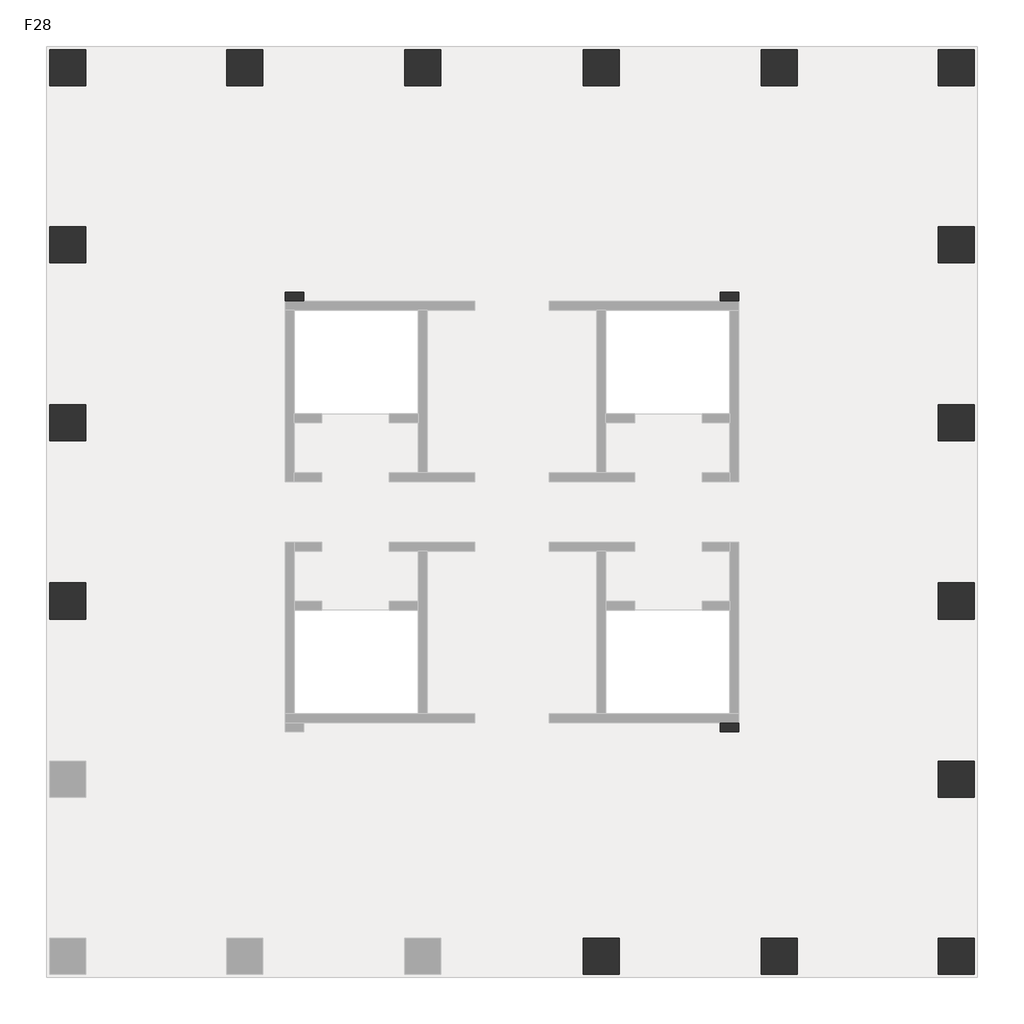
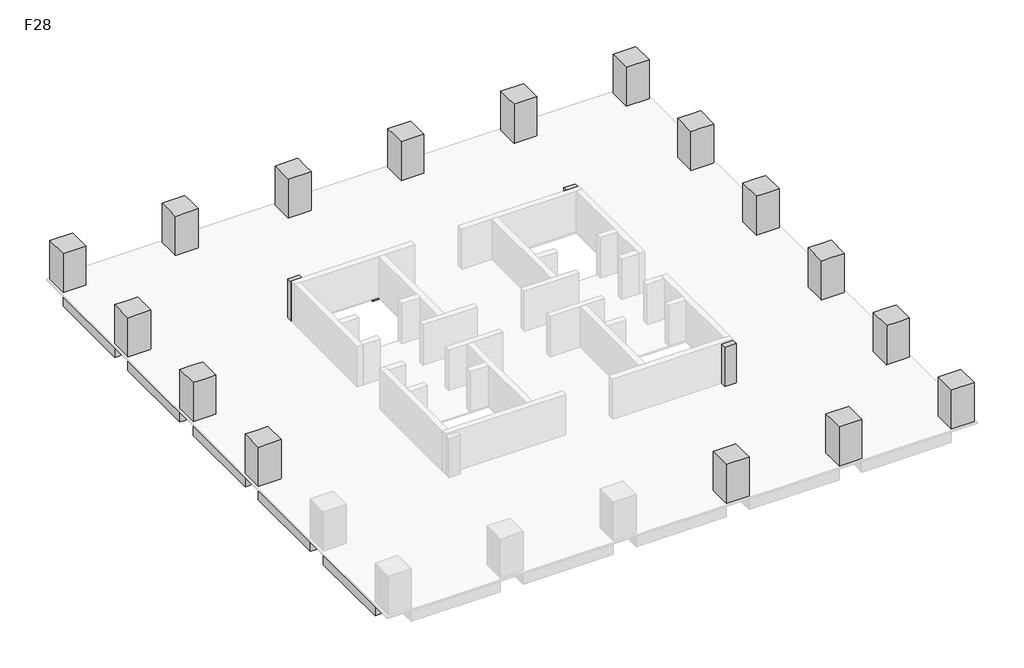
# One storey, part 2 of 2: 19 columns, 17 beams.
"""IFC4 building model written with IfcOpenShell, lengths in millimetres."""

from ifc_helpers import new_model, si_unit, frame, origin, place, context, project, spatial, polyline, outline, extrude, faceted_brep, element, save

model = new_model("IFC4")

# Units and contexts
model_context = context("Model", 3, world=origin())
ifc_project = project(units=[si_unit("LENGTHUNIT", "METRE", prefix="MILLI")], contexts=[model_context])

# Site, building, storey
site = spatial("IfcSite", under=ifc_project)
building = spatial("IfcBuilding", under=site)
storey = spatial("IfcBuildingStorey", under=building, Name="F28", Elevation=102000.0)

# Beams
placement = place(None, origin())
element("IfcBeam", 1, ObjectType="混凝土 - 矩形梁 : KL(5)-800x1000", at=placement, inside=storey, context=model_context, shape_type="SweptSolid", body=[
    extrude(outline(polyline([(25327.3257831, 27051.0498658), (25327.3257831, 26251.0498658), (19077.3257831, 26251.0498658), (19077.3257831, 27051.0498658), (25327.3257831, 27051.0498658)])), frame((0.0, 0.0, 101000.0), z_axis=(0.0, 0.0, 1.0), x_axis=(1.0, 0.0, 0.0)), (0.0, 0.0, 1.0), 900.0),
    extrude(outline(polyline([(-12472.6742169, 26251.0498658), (-12472.6742169, 27051.0498658), (-6222.6742169, 27051.0498658), (-6222.6742169, 26251.0498658), (-12472.6742169, 26251.0498658)])), frame((0.0, 0.0, 101000.0), z_axis=(0.0, 0.0, 1.0), x_axis=(1.0, 0.0, 0.0)), (0.0, 0.0, 1.0), 900.0),
    extrude(outline(polyline([(-4622.6742169, 26251.0498658), (-4622.6742169, 27051.0498658), (1677.3257831, 27051.0498658), (1677.3257831, 26251.0498658), (-4622.6742169, 26251.0498658)])), frame((0.0, 0.0, 101000.0), z_axis=(0.0, 0.0, 1.0), x_axis=(1.0, 0.0, 0.0)), (0.0, 0.0, 1.0), 900.0),
    extrude(outline(polyline([(3277.3257831, 26251.0498658), (3277.3257831, 27051.0498658), (9577.3257831, 27051.0498658), (9577.3257831, 26251.0498658), (3277.3257831, 26251.0498658)])), frame((0.0, 0.0, 101000.0), z_axis=(0.0, 0.0, 1.0), x_axis=(1.0, 0.0, 0.0)), (0.0, 0.0, 1.0), 900.0),
    extrude(outline(polyline([(11177.3257831, 26251.0498658), (11177.3257831, 27051.0498658), (17477.3257831, 27051.0498658), (17477.3257831, 26251.0498658), (11177.3257831, 26251.0498658)])), frame((0.0, 0.0, 101000.0), z_axis=(0.0, 0.0, 1.0), x_axis=(1.0, 0.0, 0.0)), (0.0, 0.0, 1.0), 900.0),
])
element("IfcBeam", 2, ObjectType="混凝土 - 矩形梁 : KL(5)-800x1000", at=placement, inside=storey, context=model_context, shape_type="SweptSolid", body=[
    extrude(outline(polyline([(26927.3257831, -12348.9501342), (26127.3257831, -12348.9501342), (26127.3257831, -6098.9501342), (26927.3257831, -6098.9501342), (26927.3257831, -12348.9501342)])), frame((0.0, 0.0, 101000.0), z_axis=(0.0, 0.0, 1.0), x_axis=(1.0, 0.0, 0.0)), (0.0, 0.0, 1.0), 900.0),
    extrude(outline(polyline([(26127.3257831, 25451.0498658), (26927.3257831, 25451.0498658), (26927.3257831, 19201.0498658), (26127.3257831, 19201.0498658), (26127.3257831, 25451.0498658)])), frame((0.0, 0.0, 101000.0), z_axis=(0.0, 0.0, 1.0), x_axis=(1.0, 0.0, 0.0)), (0.0, 0.0, 1.0), 900.0),
    extrude(outline(polyline([(26127.3257831, 17601.0498658), (26927.3257831, 17601.0498658), (26927.3257831, 11301.0498658), (26127.3257831, 11301.0498658), (26127.3257831, 17601.0498658)])), frame((0.0, 0.0, 101000.0), z_axis=(0.0, 0.0, 1.0), x_axis=(1.0, 0.0, 0.0)), (0.0, 0.0, 1.0), 900.0),
    extrude(outline(polyline([(26127.3257831, 9701.0498658), (26927.3257831, 9701.0498658), (26927.3257831, 3401.0498658), (26127.3257831, 3401.0498658), (26127.3257831, 9701.0498658)])), frame((0.0, 0.0, 101000.0), z_axis=(0.0, 0.0, 1.0), x_axis=(1.0, 0.0, 0.0)), (0.0, 0.0, 1.0), 900.0),
    extrude(outline(polyline([(26127.3257831, 1801.0498658), (26927.3257831, 1801.0498658), (26927.3257831, -4498.9501342), (26127.3257831, -4498.9501342), (26127.3257831, 1801.0498658)])), frame((0.0, 0.0, 101000.0), z_axis=(0.0, 0.0, 1.0), x_axis=(1.0, 0.0, 0.0)), (0.0, 0.0, 1.0), 900.0),
])
element("IfcBeam", 3, ObjectType="混凝土 - 矩形梁 : KL(5)-800x1000", at=placement, inside=storey, context=model_context, shape_type="SweptSolid", body=[
    extrude(outline(polyline([(-14072.6742169, 25451.0498658), (-13272.6742169, 25451.0498658), (-13272.6742169, 19201.0498658), (-14072.6742169, 19201.0498658), (-14072.6742169, 25451.0498658)])), frame((0.0, 0.0, 101000.0), z_axis=(0.0, 0.0, 1.0), x_axis=(1.0, 0.0, 0.0)), (0.0, 0.0, 1.0), 900.0),
    extrude(outline(polyline([(-13272.6742169, -12348.9501342), (-14072.6742169, -12348.9501342), (-14072.6742169, -6098.9501342), (-13272.6742169, -6098.9501342), (-13272.6742169, -12348.9501342)])), frame((0.0, 0.0, 101000.0), z_axis=(0.0, 0.0, 1.0), x_axis=(1.0, 0.0, 0.0)), (0.0, 0.0, 1.0), 900.0),
    extrude(outline(polyline([(-14072.6742169, 17601.0498658), (-13272.6742169, 17601.0498658), (-13272.6742169, 11301.0498658), (-14072.6742169, 11301.0498658), (-14072.6742169, 17601.0498658)])), frame((0.0, 0.0, 101000.0), z_axis=(0.0, 0.0, 1.0), x_axis=(1.0, 0.0, 0.0)), (0.0, 0.0, 1.0), 900.0),
    extrude(outline(polyline([(-14072.6742169, 9701.0498658), (-13272.6742169, 9701.0498658), (-13272.6742169, 3401.0498658), (-14072.6742169, 3401.0498658), (-14072.6742169, 9701.0498658)])), frame((0.0, 0.0, 101000.0), z_axis=(0.0, 0.0, 1.0), x_axis=(1.0, 0.0, 0.0)), (0.0, 0.0, 1.0), 900.0),
    extrude(outline(polyline([(-14072.6742169, 1801.0498658), (-13272.6742169, 1801.0498658), (-13272.6742169, -4498.9501342), (-14072.6742169, -4498.9501342), (-14072.6742169, 1801.0498658)])), frame((0.0, 0.0, 101000.0), z_axis=(0.0, 0.0, 1.0), x_axis=(1.0, 0.0, 0.0)), (0.0, 0.0, 1.0), 900.0),
])
element("IfcBeam", 4, ObjectType="混凝土 - 矩形梁 : L1-800x500", at=placement, inside=storey, context=model_context, shape_type="SweptSolid", body=[
    extrude(outline(polyline([(-12472.6742169, 2201.0498658), (-12472.6742169, 3001.0498658), (-3622.6742169, 3001.0498658), (-3622.6742169, 2201.0498658), (-12472.6742169, 2201.0498658)])), frame((0.0, 0.0, 101500.0), z_axis=(0.0, 0.0, 1.0), x_axis=(1.0, 0.0, 0.0)), (0.0, 0.0, 1.0), 400.0),
])
element("IfcBeam", 5, ObjectType="混凝土 - 矩形梁 : L1-800x500", at=placement, inside=storey, context=model_context, shape_type="SweptSolid", body=[
    extrude(outline(polyline([(-12472.6742169, 10101.0498658), (-12472.6742169, 10901.0498658), (-3622.6742169, 10901.0498658), (-3622.6742169, 10101.0498658), (-12472.6742169, 10101.0498658)])), frame((0.0, 0.0, 101500.0), z_axis=(0.0, 0.0, 1.0), x_axis=(1.0, 0.0, 0.0)), (0.0, 0.0, 1.0), 400.0),
])
element("IfcBeam", 6, ObjectType="混凝土 - 矩形梁 : L1-800x500", at=placement, inside=storey, context=model_context, shape_type="Brep", body=[
    faceted_brep([(-12472.6742169, 17789.85471, 101500.0), (-3622.6742169, 15588.3621727, 101500.0), (-3622.6742169, 15588.3621727, 101900.0), (-12472.6742169, 17789.85471, 101900.0), (-3173.6696907, 16301.0498658, 101500.0), (-3622.6742169, 16301.0498658, 101500.0), (-3622.6742169, 15901.0498658, 101500.0), (-12472.6742169, 18614.2350714, 101500.0), (-3746.9473979, 16443.6562607, 101500.0), (-12472.6742169, 18614.2350714, 101900.0), (-3746.9473979, 16443.6562607, 101900.0), (-3173.6696907, 16301.0498658, 101900.0), (-3622.6742169, 16301.0498658, 101900.0)], [[[0, 1, 2, 3]], [[4, 5, 6, 1, 0, 7, 8]], [[4, 8, 7, 9, 10, 11]], [[6, 5, 12, 2, 1]], [[5, 4, 11, 12]], [[7, 0, 3, 9]], [[3, 2, 12, 11, 10, 9]]]),
])
element("IfcBeam", 7, ObjectType="混凝土 - 矩形梁 : L1-800x500", at=placement, inside=storey, context=model_context, shape_type="SweptSolid", body=[
    extrude(outline(polyline([(-3173.6696907, 16301.0498658), (-3746.9473979, 16443.6562607), (-5661.5624638, 25451.0498658), (-4843.6893517, 25451.0498658), (-2898.7618154, 16301.0498658), (-3173.6696907, 16301.0498658)])), frame((0.0, 0.0, 101500.0), z_axis=(0.0, 0.0, 1.0), x_axis=(1.0, 0.0, 0.0)), (0.0, 0.0, 1.0), 400.0),
])
element("IfcBeam", 8, ObjectType="混凝土 - 矩形梁 : L1-800x500", at=placement, inside=storey, context=model_context, shape_type="SweptSolid", body=[
    extrude(outline(polyline([(2077.3257831, 25451.0498658), (2877.3257831, 25451.0498658), (2877.3257831, 15901.0498658), (2077.3257831, 15901.0498658), (2077.3257831, 25451.0498658)])), frame((0.0, 0.0, 101500.0), z_axis=(0.0, 0.0, 1.0), x_axis=(1.0, 0.0, 0.0)), (0.0, 0.0, 1.0), 400.0),
])
element("IfcBeam", 9, ObjectType="混凝土 - 矩形梁 : L1-800x500", at=placement, inside=storey, context=model_context, shape_type="SweptSolid", body=[
    extrude(outline(polyline([(9977.3257831, 25451.0498658), (10777.3257831, 25451.0498658), (10777.3257831, 15901.0498658), (9977.3257831, 15901.0498658), (9977.3257831, 25451.0498658)])), frame((0.0, 0.0, 101500.0), z_axis=(0.0, 0.0, 1.0), x_axis=(1.0, 0.0, 0.0)), (0.0, 0.0, 1.0), 400.0),
])
element("IfcBeam", 10, ObjectType="混凝土 - 矩形梁 : L1-800x500", at=placement, inside=storey, context=model_context, shape_type="SweptSolid", body=[
    extrude(outline(polyline([(2877.3257831, -12348.9501342), (2077.3257831, -12348.9501342), (2077.3257831, -2798.9501342), (2877.3257831, -2798.9501342), (2877.3257831, -12348.9501342)])), frame((0.0, 0.0, 101500.0), z_axis=(0.0, 0.0, 1.0), x_axis=(1.0, 0.0, 0.0)), (0.0, 0.0, 1.0), 400.0),
])
element("IfcBeam", 11, ObjectType="混凝土 - 矩形梁 : L1-800x500", at=placement, inside=storey, context=model_context, shape_type="SweptSolid", body=[
    extrude(outline(polyline([(10777.3257831, -12348.9501342), (9977.3257831, -12348.9501342), (9977.3257831, -2798.9501342), (10777.3257831, -2798.9501342), (10777.3257831, -12348.9501342)])), frame((0.0, 0.0, 101500.0), z_axis=(0.0, 0.0, 1.0), x_axis=(1.0, 0.0, 0.0)), (0.0, 0.0, 1.0), 400.0),
])
element("IfcBeam", 12, ObjectType="混凝土 - 矩形梁 : L1-800x500", at=placement, inside=storey, context=model_context, shape_type="Brep", body=[
    faceted_brep([(25327.3257831, -4687.7549784, 101500.0), (16477.3257831, -2486.2624411, 101500.0), (16477.3257831, -2486.2624411, 101900.0), (25327.3257831, -4687.7549784, 101900.0), (16028.3212569, -3198.9501342, 101500.0), (16477.3257831, -3198.9501342, 101500.0), (16477.3257831, -2798.9501342, 101500.0), (25327.3257831, -5512.1353397, 101500.0), (16601.5989641, -3341.556529, 101500.0), (25327.3257831, -5512.1353397, 101900.0), (16601.5989641, -3341.556529, 101900.0), (16028.3212569, -3198.9501342, 101900.0), (16477.3257831, -3198.9501342, 101900.0)], [[[0, 1, 2, 3]], [[4, 5, 6, 1, 0, 7, 8]], [[4, 8, 7, 9, 10, 11]], [[6, 5, 12, 2, 1]], [[5, 4, 11, 12]], [[7, 0, 3, 9]], [[3, 2, 12, 11, 10, 9]]]),
])
element("IfcBeam", 13, ObjectType="混凝土 - 矩形梁 : L1-800x500", at=placement, inside=storey, context=model_context, shape_type="SweptSolid", body=[
    extrude(outline(polyline([(16028.3212569, -3198.9501342), (16601.5989641, -3341.556529), (18516.21403, -12348.9501342), (17698.3409179, -12348.9501342), (15753.4133817, -3198.9501342), (16028.3212569, -3198.9501342)])), frame((0.0, 0.0, 101500.0), z_axis=(0.0, 0.0, 1.0), x_axis=(1.0, 0.0, 0.0)), (0.0, 0.0, 1.0), 400.0),
])
element("IfcBeam", 14, ObjectType="混凝土 - 矩形梁 : L1-800x500", at=placement, inside=storey, context=model_context, shape_type="SweptSolid", body=[
    extrude(outline(polyline([(25327.3257831, 3001.0498658), (25327.3257831, 2201.0498658), (16477.3257831, 2201.0498658), (16477.3257831, 3001.0498658), (25327.3257831, 3001.0498658)])), frame((0.0, 0.0, 101500.0), z_axis=(0.0, 0.0, 1.0), x_axis=(1.0, 0.0, 0.0)), (0.0, 0.0, 1.0), 400.0),
])
element("IfcBeam", 15, ObjectType="混凝土 - 矩形梁 : L1-800x500", at=placement, inside=storey, context=model_context, shape_type="SweptSolid", body=[
    extrude(outline(polyline([(25327.3257831, 10901.0498658), (25327.3257831, 10101.0498658), (16477.3257831, 10101.0498658), (16477.3257831, 10901.0498658), (25327.3257831, 10901.0498658)])), frame((0.0, 0.0, 101500.0), z_axis=(0.0, 0.0, 1.0), x_axis=(1.0, 0.0, 0.0)), (0.0, 0.0, 1.0), 400.0),
])
element("IfcBeam", 16, ObjectType="混凝土 - 矩形梁 : L1-800x500", at=placement, inside=storey, context=model_context, shape_type="Brep", body=[
    faceted_brep([(25327.3257831, 18610.6867312, 101500.0), (16590.8993897, 16393.3196262, 101500.0), (16227.3565337, 16301.0498658, 101500.0), (16227.3565337, 16301.0498658, 101900.0), (16590.8993897, 16393.3196262, 101900.0), (25327.3257831, 18610.6867312, 101900.0), (16477.3257831, 16301.0498658, 101500.0), (25327.3257831, 17785.3216299, 101500.0), (16477.3257831, 15539.1287365, 101500.0), (16477.3257831, 15901.0498658, 101500.0), (25327.3257831, 17785.3216299, 101900.0), (16477.3257831, 15539.1287365, 101900.0), (16477.3257831, 16301.0498658, 101900.0)], [[[0, 1, 2, 3, 4, 5]], [[6, 2, 1, 0, 7, 8, 9]], [[8, 7, 10, 11]], [[9, 8, 11, 12, 6]], [[2, 6, 12, 3]], [[7, 0, 5, 10]], [[5, 4, 3, 12, 11, 10]]]),
])
element("IfcBeam", 17, ObjectType="混凝土 - 矩形梁 : L1-800x500", at=placement, inside=storey, context=model_context, shape_type="SweptSolid", body=[
    extrude(outline(polyline([(16590.8993897, 16393.3196262), (16227.3565337, 16301.0498658), (15753.4133817, 16301.0498658), (17698.3409179, 25451.0498658), (18516.21403, 25451.0498658), (16590.8993897, 16393.3196262)])), frame((0.0, 0.0, 101500.0), z_axis=(0.0, 0.0, 1.0), x_axis=(1.0, 0.0, 0.0)), (0.0, 0.0, 1.0), 400.0),
])

# Columns
element("IfcColumn", 18, ObjectType="混凝土 - 矩形 - 柱 : Z1-1600x1600", at=placement, inside=storey, context=model_context, shape_type="SweptSolid", body=[
    extrude(outline(polyline([(-12472.6742169, 27051.0498658), (-12472.6742169, 25451.0498658), (-14072.6742169, 25451.0498658), (-14072.6742169, 27051.0498658), (-12472.6742169, 27051.0498658)])), frame((0.0, 0.0, 102000.0), z_axis=(0.0, 0.0, 1.0), x_axis=(1.0, 0.0, 0.0)), (0.0, 0.0, 1.0), 2900.0),
])
element("IfcColumn", 19, ObjectType="混凝土 - 矩形 - 柱 : Z1-1600x1600", at=placement, inside=storey, context=model_context, shape_type="Brep", body=[
    faceted_brep([(-4622.6742169, 27051.0498658, 102000.0), (-4622.6742169, 25451.0498658, 102000.0), (-6222.6742169, 25451.0498658, 102000.0), (-6222.6742169, 27051.0498658, 102000.0), (-4622.6742169, 27051.0498658, 104000.0), (-4622.6742169, 27051.0498658, 104900.0), (-4622.6742169, 26251.0498658, 104900.0), (-4622.6742169, 25451.0498658, 104900.0), (-6222.6742169, 25451.0498658, 104900.0), (-6222.6742169, 26251.0498658, 104900.0), (-6222.6742169, 27051.0498658, 104900.0), (-6222.6742169, 27051.0498658, 104000.0)], [[[0, 1, 2, 3]], [[1, 0, 4, 5, 6, 7]], [[2, 1, 7, 8]], [[3, 2, 8, 9, 10, 11]], [[0, 3, 11, 10, 5, 4]], [[7, 6, 5, 10, 9, 8]]]),
])
element("IfcColumn", 20, ObjectType="混凝土 - 矩形 - 柱 : Z1-1600x1600", at=placement, inside=storey, context=model_context, shape_type="Brep", body=[
    faceted_brep([(-12472.6742169, 19201.0498658, 102000.0), (-12472.6742169, 17601.0498658, 102000.0), (-14072.6742169, 17601.0498658, 102000.0), (-14072.6742169, 19201.0498658, 102000.0), (-12472.6742169, 19201.0498658, 104900.0), (-12472.6742169, 17601.0498658, 104900.0), (-13272.6742169, 17601.0498658, 104900.0), (-14072.6742169, 17601.0498658, 104900.0), (-14072.6742169, 17601.0498658, 104000.0), (-14072.6742169, 19201.0498658, 104900.0), (-14072.6742169, 19201.0498658, 104000.0), (-13272.6742169, 19201.0498658, 104900.0)], [[[0, 1, 2, 3]], [[1, 0, 4, 5]], [[2, 1, 5, 6, 7, 8]], [[3, 2, 8, 7, 9, 10]], [[0, 3, 10, 9, 11, 4]], [[5, 4, 11, 9, 7, 6]]]),
])
element("IfcColumn", 21, ObjectType="混凝土 - 矩形 - 柱 : Z1-1600x1600", at=placement, inside=storey, context=model_context, shape_type="Brep", body=[
    faceted_brep([(-12472.6742169, 11301.0498658, 102000.0), (-12472.6742169, 9701.0498658, 102000.0), (-14072.6742169, 9701.0498658, 102000.0), (-14072.6742169, 11301.0498658, 102000.0), (-12472.6742169, 11301.0498658, 104900.0), (-12472.6742169, 9701.0498658, 104900.0), (-13272.6742169, 9701.0498658, 104900.0), (-14072.6742169, 9701.0498658, 104900.0), (-14072.6742169, 9701.0498658, 104000.0), (-14072.6742169, 11301.0498658, 104900.0), (-14072.6742169, 11301.0498658, 104000.0), (-13272.6742169, 11301.0498658, 104900.0)], [[[0, 1, 2, 3]], [[1, 0, 4, 5]], [[2, 1, 5, 6, 7, 8]], [[3, 2, 8, 7, 9, 10]], [[0, 3, 10, 9, 11, 4]], [[5, 4, 11, 9, 7, 6]]]),
])
element("IfcColumn", 22, ObjectType="混凝土 - 矩形 - 柱 : Z1-1600x1600", at=placement, inside=storey, context=model_context, shape_type="Brep", body=[
    faceted_brep([(-12472.6742169, 3401.0498658, 102000.0), (-12472.6742169, 1801.0498658, 102000.0), (-14072.6742169, 1801.0498658, 102000.0), (-14072.6742169, 3401.0498658, 102000.0), (-12472.6742169, 3401.0498658, 104900.0), (-12472.6742169, 1801.0498658, 104900.0), (-13272.6742169, 1801.0498658, 104900.0), (-14072.6742169, 1801.0498658, 104900.0), (-14072.6742169, 1801.0498658, 104000.0), (-14072.6742169, 3401.0498658, 104900.0), (-14072.6742169, 3401.0498658, 104000.0), (-13272.6742169, 3401.0498658, 104900.0)], [[[0, 1, 2, 3]], [[1, 0, 4, 5]], [[2, 1, 5, 6, 7, 8]], [[3, 2, 8, 7, 9, 10]], [[0, 3, 10, 9, 11, 4]], [[5, 4, 11, 9, 7, 6]]]),
])
element("IfcColumn", 23, ObjectType="混凝土 - 矩形 - 柱 : Z1-1600x1600", at=placement, inside=storey, context=model_context, shape_type="SweptSolid", body=[
    extrude(outline(polyline([(25327.3257831, 27051.0498658), (26927.3257831, 27051.0498658), (26927.3257831, 25451.0498658), (25327.3257831, 25451.0498658), (25327.3257831, 27051.0498658)])), frame((0.0, 0.0, 102000.0), z_axis=(0.0, 0.0, 1.0), x_axis=(1.0, 0.0, 0.0)), (0.0, 0.0, 1.0), 2900.0),
])
element("IfcColumn", 24, ObjectType="混凝土 - 矩形 - 柱 : Z1-1600x1600", at=placement, inside=storey, context=model_context, shape_type="Brep", body=[
    faceted_brep([(25327.3257831, 19201.0498658, 102000.0), (26927.3257831, 19201.0498658, 102000.0), (26927.3257831, 17601.0498658, 102000.0), (25327.3257831, 17601.0498658, 102000.0), (25327.3257831, 17601.0498658, 104900.0), (25327.3257831, 19201.0498658, 104900.0), (26927.3257831, 17601.0498658, 104000.0), (26927.3257831, 17601.0498658, 104900.0), (26127.3257831, 17601.0498658, 104900.0), (26927.3257831, 19201.0498658, 104000.0), (26927.3257831, 19201.0498658, 104900.0), (26127.3257831, 19201.0498658, 104900.0)], [[[0, 1, 2, 3]], [[0, 3, 4, 5]], [[3, 2, 6, 7, 8, 4]], [[2, 1, 9, 10, 7, 6]], [[1, 0, 5, 11, 10, 9]], [[5, 4, 8, 7, 10, 11]]]),
])
element("IfcColumn", 25, ObjectType="混凝土 - 矩形 - 柱 : Z1-1600x1600", at=placement, inside=storey, context=model_context, shape_type="Brep", body=[
    faceted_brep([(25327.3257831, 11301.0498658, 102000.0), (26927.3257831, 11301.0498658, 102000.0), (26927.3257831, 9701.0498658, 102000.0), (25327.3257831, 9701.0498658, 102000.0), (25327.3257831, 9701.0498658, 104900.0), (25327.3257831, 11301.0498658, 104900.0), (26927.3257831, 9701.0498658, 104000.0), (26927.3257831, 9701.0498658, 104900.0), (26127.3257831, 9701.0498658, 104900.0), (26927.3257831, 11301.0498658, 104000.0), (26927.3257831, 11301.0498658, 104900.0), (26127.3257831, 11301.0498658, 104900.0)], [[[0, 1, 2, 3]], [[0, 3, 4, 5]], [[3, 2, 6, 7, 8, 4]], [[2, 1, 9, 10, 7, 6]], [[1, 0, 5, 11, 10, 9]], [[5, 4, 8, 7, 10, 11]]]),
])
element("IfcColumn", 26, ObjectType="混凝土 - 矩形 - 柱 : Z1-1600x1600", at=placement, inside=storey, context=model_context, shape_type="Brep", body=[
    faceted_brep([(25327.3257831, 3401.0498658, 102000.0), (26927.3257831, 3401.0498658, 102000.0), (26927.3257831, 1801.0498658, 102000.0), (25327.3257831, 1801.0498658, 102000.0), (25327.3257831, 1801.0498658, 104900.0), (25327.3257831, 3401.0498658, 104900.0), (26927.3257831, 1801.0498658, 104000.0), (26927.3257831, 1801.0498658, 104900.0), (26127.3257831, 1801.0498658, 104900.0), (26927.3257831, 3401.0498658, 104000.0), (26927.3257831, 3401.0498658, 104900.0), (26127.3257831, 3401.0498658, 104900.0)], [[[0, 1, 2, 3]], [[0, 3, 4, 5]], [[3, 2, 6, 7, 8, 4]], [[2, 1, 9, 10, 7, 6]], [[1, 0, 5, 11, 10, 9]], [[5, 4, 8, 7, 10, 11]]]),
])
element("IfcColumn", 27, ObjectType="混凝土 - 矩形 - 柱 : Z1-1600x1600", at=placement, inside=storey, context=model_context, shape_type="Brep", body=[
    faceted_brep([(25327.3257831, -4498.9501342, 102000.0), (26927.3257831, -4498.9501342, 102000.0), (26927.3257831, -6098.9501342, 102000.0), (25327.3257831, -6098.9501342, 102000.0), (25327.3257831, -6098.9501342, 104900.0), (25327.3257831, -4498.9501342, 104900.0), (26927.3257831, -6098.9501342, 104000.0), (26927.3257831, -6098.9501342, 104900.0), (26127.3257831, -6098.9501342, 104900.0), (26927.3257831, -4498.9501342, 104000.0), (26927.3257831, -4498.9501342, 104900.0), (26127.3257831, -4498.9501342, 104900.0)], [[[0, 1, 2, 3]], [[0, 3, 4, 5]], [[3, 2, 6, 7, 8, 4]], [[2, 1, 9, 10, 7, 6]], [[1, 0, 5, 11, 10, 9]], [[5, 4, 8, 7, 10, 11]]]),
])
element("IfcColumn", 28, ObjectType="混凝土 - 矩形 - 柱 : Z1-1600x1600", at=placement, inside=storey, context=model_context, shape_type="SweptSolid", body=[
    extrude(outline(polyline([(25327.3257831, -12348.9501342), (26927.3257831, -12348.9501342), (26927.3257831, -13948.9501342), (25327.3257831, -13948.9501342), (25327.3257831, -12348.9501342)])), frame((0.0, 0.0, 102000.0), z_axis=(0.0, 0.0, 1.0), x_axis=(1.0, 0.0, 0.0)), (0.0, 0.0, 1.0), 2900.0),
])
element("IfcColumn", 29, ObjectType="混凝土 - 矩形 - 柱 : Z1-1600x1600", at=placement, inside=storey, context=model_context, shape_type="Brep", body=[
    faceted_brep([(3277.3257831, 27051.0498658, 102000.0), (3277.3257831, 25451.0498658, 102000.0), (1677.3257831, 25451.0498658, 102000.0), (1677.3257831, 27051.0498658, 102000.0), (3277.3257831, 27051.0498658, 104000.0), (3277.3257831, 27051.0498658, 104900.0), (3277.3257831, 26251.0498658, 104900.0), (3277.3257831, 25451.0498658, 104900.0), (1677.3257831, 25451.0498658, 104900.0), (1677.3257831, 26251.0498658, 104900.0), (1677.3257831, 27051.0498658, 104900.0), (1677.3257831, 27051.0498658, 104000.0)], [[[0, 1, 2, 3]], [[1, 0, 4, 5, 6, 7]], [[2, 1, 7, 8]], [[3, 2, 8, 9, 10, 11]], [[0, 3, 11, 10, 5, 4]], [[7, 6, 5, 10, 9, 8]]]),
])
element("IfcColumn", 30, ObjectType="混凝土 - 矩形 - 柱 : Z1-1600x1600", at=placement, inside=storey, context=model_context, shape_type="Brep", body=[
    faceted_brep([(11177.3257831, 27051.0498658, 102000.0), (11177.3257831, 25451.0498658, 102000.0), (9577.3257831, 25451.0498658, 102000.0), (9577.3257831, 27051.0498658, 102000.0), (11177.3257831, 27051.0498658, 104000.0), (11177.3257831, 27051.0498658, 104900.0), (11177.3257831, 26251.0498658, 104900.0), (11177.3257831, 25451.0498658, 104900.0), (9577.3257831, 25451.0498658, 104900.0), (9577.3257831, 26251.0498658, 104900.0), (9577.3257831, 27051.0498658, 104900.0), (9577.3257831, 27051.0498658, 104000.0)], [[[0, 1, 2, 3]], [[1, 0, 4, 5, 6, 7]], [[2, 1, 7, 8]], [[3, 2, 8, 9, 10, 11]], [[0, 3, 11, 10, 5, 4]], [[7, 6, 5, 10, 9, 8]]]),
])
element("IfcColumn", 31, ObjectType="混凝土 - 矩形 - 柱 : Z1-1600x1600", at=placement, inside=storey, context=model_context, shape_type="Brep", body=[
    faceted_brep([(19077.3257831, 27051.0498658, 102000.0), (19077.3257831, 25451.0498658, 102000.0), (17477.3257831, 25451.0498658, 102000.0), (17477.3257831, 27051.0498658, 102000.0), (19077.3257831, 27051.0498658, 104000.0), (19077.3257831, 27051.0498658, 104900.0), (19077.3257831, 26251.0498658, 104900.0), (19077.3257831, 25451.0498658, 104900.0), (17477.3257831, 25451.0498658, 104900.0), (17477.3257831, 26251.0498658, 104900.0), (17477.3257831, 27051.0498658, 104900.0), (17477.3257831, 27051.0498658, 104000.0)], [[[0, 1, 2, 3]], [[1, 0, 4, 5, 6, 7]], [[2, 1, 7, 8]], [[3, 2, 8, 9, 10, 11]], [[0, 3, 11, 10, 5, 4]], [[7, 6, 5, 10, 9, 8]]]),
])
element("IfcColumn", 32, ObjectType="混凝土 - 矩形 - 柱 : Z1-1600x1600", at=placement, inside=storey, context=model_context, shape_type="Brep", body=[
    faceted_brep([(11177.3257831, -12348.9501342, 102000.0), (11177.3257831, -13948.9501342, 102000.0), (9577.3257831, -13948.9501342, 102000.0), (9577.3257831, -12348.9501342, 102000.0), (11177.3257831, -12348.9501342, 104900.0), (11177.3257831, -13148.9501342, 104900.0), (11177.3257831, -13948.9501342, 104900.0), (11177.3257831, -13948.9501342, 104000.0), (9577.3257831, -13948.9501342, 104900.0), (9577.3257831, -13948.9501342, 104000.0), (9577.3257831, -13148.9501342, 104900.0), (9577.3257831, -12348.9501342, 104900.0)], [[[0, 1, 2, 3]], [[1, 0, 4, 5, 6, 7]], [[2, 1, 7, 6, 8, 9]], [[3, 2, 9, 8, 10, 11]], [[0, 3, 11, 4]], [[6, 5, 4, 11, 10, 8]]]),
])
element("IfcColumn", 33, ObjectType="混凝土 - 矩形 - 柱 : Z1-1600x1600", at=placement, inside=storey, context=model_context, shape_type="Brep", body=[
    faceted_brep([(19077.3257831, -12348.9501342, 102000.0), (19077.3257831, -13948.9501342, 102000.0), (17477.3257831, -13948.9501342, 102000.0), (17477.3257831, -12348.9501342, 102000.0), (19077.3257831, -12348.9501342, 104900.0), (19077.3257831, -13148.9501342, 104900.0), (19077.3257831, -13948.9501342, 104900.0), (19077.3257831, -13948.9501342, 104000.0), (17477.3257831, -13948.9501342, 104900.0), (17477.3257831, -13948.9501342, 104000.0), (17477.3257831, -13148.9501342, 104900.0), (17477.3257831, -12348.9501342, 104900.0)], [[[0, 1, 2, 3]], [[1, 0, 4, 5, 6, 7]], [[2, 1, 7, 6, 8, 9]], [[3, 2, 9, 8, 10, 11]], [[0, 3, 11, 4]], [[6, 5, 4, 11, 10, 8]]]),
])
element("IfcColumn", 34, ObjectType="混凝土 - 矩形 - 柱 : Z2-800x800", at=placement, inside=storey, context=model_context, shape_type="SweptSolid", body=[
    extrude(outline(polyline([(-3622.6742169, 16301.0498658), (-2822.6742169, 16301.0498658), (-2822.6742169, 15901.0498658), (-3622.6742169, 15901.0498658), (-3622.6742169, 16301.0498658)])), frame((0.0, 0.0, 102000.0), z_axis=(0.0, 0.0, 1.0), x_axis=(1.0, 0.0, 0.0)), (0.0, 0.0, 1.0), 2900.0),
])
element("IfcColumn", 35, ObjectType="混凝土 - 矩形 - 柱 : Z2-800x800", at=placement, inside=storey, context=model_context, shape_type="SweptSolid", body=[
    extrude(outline(polyline([(16477.3257831, -3198.9501342), (15677.3257831, -3198.9501342), (15677.3257831, -2798.9501342), (16477.3257831, -2798.9501342), (16477.3257831, -3198.9501342)])), frame((0.0, 0.0, 102000.0), z_axis=(0.0, 0.0, 1.0), x_axis=(1.0, 0.0, 0.0)), (0.0, 0.0, 1.0), 2900.0),
])
element("IfcColumn", 36, ObjectType="混凝土 - 矩形 - 柱 : Z2-800x800", at=placement, inside=storey, context=model_context, shape_type="SweptSolid", body=[
    extrude(outline(polyline([(15677.3257831, 16301.0498658), (16477.3257831, 16301.0498658), (16477.3257831, 15901.0498658), (15677.3257831, 15901.0498658), (15677.3257831, 16301.0498658)])), frame((0.0, 0.0, 102000.0), z_axis=(0.0, 0.0, 1.0), x_axis=(1.0, 0.0, 0.0)), (0.0, 0.0, 1.0), 2900.0),
])

save(model, "model.ifc")
